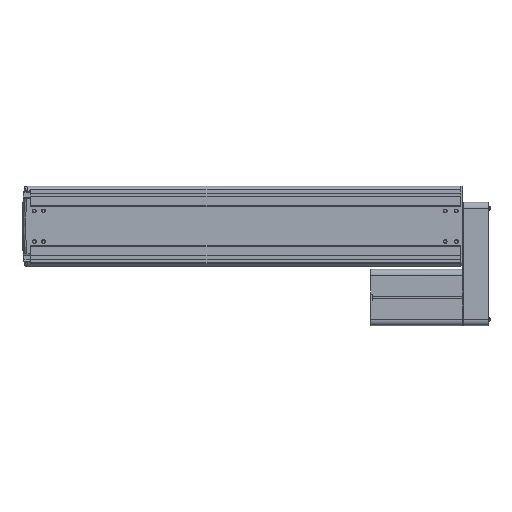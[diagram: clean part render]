
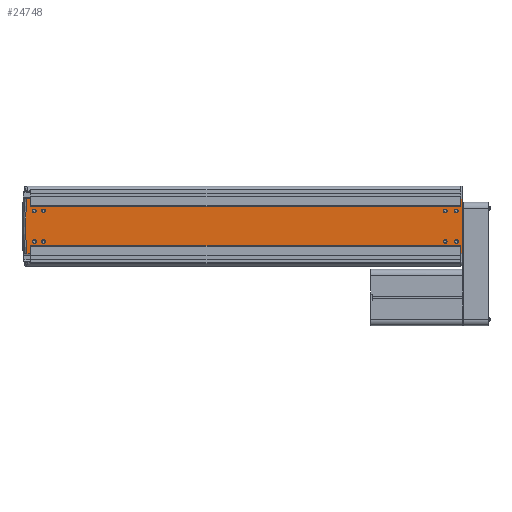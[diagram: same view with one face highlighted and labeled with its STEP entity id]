
A CAD part, front view. The second image highlights one B-rep face of the part: STEP entity #24748.
In plain terms, the highlighted planar face has unit normal (0, -1, 0).
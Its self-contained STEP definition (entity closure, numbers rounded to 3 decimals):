
#2471=CARTESIAN_POINT('',(-694.,1.5,-25.));
#2472=DIRECTION('',(0.,1.,0.));
#2473=DIRECTION('',(1.,0.,0.));
#2474=AXIS2_PLACEMENT_3D('',#2471,#2472,#2473);
#2476=CARTESIAN_POINT('',(-694.,1.5,-25.));
#2477=DIRECTION('',(0.,1.,0.));
#2478=DIRECTION('',(-1.,0.,0.));
#2479=AXIS2_PLACEMENT_3D('',#2476,#2477,#2478);
#2481=CARTESIAN_POINT('',(-694.,1.5,25.));
#2482=DIRECTION('',(0.,1.,0.));
#2483=DIRECTION('',(1.,0.,0.));
#2484=AXIS2_PLACEMENT_3D('',#2481,#2482,#2483);
#2486=CARTESIAN_POINT('',(-694.,1.5,25.));
#2487=DIRECTION('',(0.,1.,0.));
#2488=DIRECTION('',(-1.,0.,0.));
#2489=AXIS2_PLACEMENT_3D('',#2486,#2487,#2488);
#2491=CARTESIAN_POINT('',(-679.,1.5,-25.));
#2492=DIRECTION('',(0.,1.,0.));
#2493=DIRECTION('',(1.,0.,0.));
#2494=AXIS2_PLACEMENT_3D('',#2491,#2492,#2493);
#2496=CARTESIAN_POINT('',(-679.,1.5,-25.));
#2497=DIRECTION('',(0.,1.,0.));
#2498=DIRECTION('',(-1.,0.,0.));
#2499=AXIS2_PLACEMENT_3D('',#2496,#2497,#2498);
#2501=CARTESIAN_POINT('',(-679.,1.5,25.));
#2502=DIRECTION('',(0.,1.,0.));
#2503=DIRECTION('',(1.,0.,0.));
#2504=AXIS2_PLACEMENT_3D('',#2501,#2502,#2503);
#2506=CARTESIAN_POINT('',(-679.,1.5,25.));
#2507=DIRECTION('',(0.,1.,0.));
#2508=DIRECTION('',(-1.,0.,0.));
#2509=AXIS2_PLACEMENT_3D('',#2506,#2507,#2508);
#2511=CARTESIAN_POINT('',(-7.,1.5,-25.));
#2512=DIRECTION('',(0.,1.,0.));
#2513=DIRECTION('',(1.,0.,0.));
#2514=AXIS2_PLACEMENT_3D('',#2511,#2512,#2513);
#2516=CARTESIAN_POINT('',(-7.,1.5,-25.));
#2517=DIRECTION('',(0.,1.,0.));
#2518=DIRECTION('',(-1.,0.,0.));
#2519=AXIS2_PLACEMENT_3D('',#2516,#2517,#2518);
#2521=CARTESIAN_POINT('',(-7.,1.5,25.));
#2522=DIRECTION('',(0.,1.,0.));
#2523=DIRECTION('',(1.,0.,0.));
#2524=AXIS2_PLACEMENT_3D('',#2521,#2522,#2523);
#2526=CARTESIAN_POINT('',(-7.,1.5,25.));
#2527=DIRECTION('',(0.,1.,0.));
#2528=DIRECTION('',(-1.,0.,0.));
#2529=AXIS2_PLACEMENT_3D('',#2526,#2527,#2528);
#2531=CARTESIAN_POINT('',(-25.,1.5,-25.));
#2532=DIRECTION('',(0.,1.,0.));
#2533=DIRECTION('',(1.,0.,0.));
#2534=AXIS2_PLACEMENT_3D('',#2531,#2532,#2533);
#2536=CARTESIAN_POINT('',(-25.,1.5,-25.));
#2537=DIRECTION('',(0.,1.,0.));
#2538=DIRECTION('',(-1.,0.,0.));
#2539=AXIS2_PLACEMENT_3D('',#2536,#2537,#2538);
#2541=CARTESIAN_POINT('',(-25.,1.5,25.));
#2542=DIRECTION('',(0.,1.,0.));
#2543=DIRECTION('',(1.,0.,0.));
#2544=AXIS2_PLACEMENT_3D('',#2541,#2542,#2543);
#2546=CARTESIAN_POINT('',(-25.,1.5,25.));
#2547=DIRECTION('',(0.,1.,0.));
#2548=DIRECTION('',(-1.,0.,0.));
#2549=AXIS2_PLACEMENT_3D('',#2546,#2547,#2548);
#2551=CARTESIAN_POINT('',(-214.,1.5,0.));
#2552=DIRECTION('',(0.,-1.,0.));
#2553=DIRECTION('',(-0.996,0.,0.091));
#2554=AXIS2_PLACEMENT_3D('',#2551,#2552,#2553);
#2556=DIRECTION('',(-1.,0.,0.));
#2557=VECTOR('',#2556,700.);
#2558=CARTESIAN_POINT('',(0.,1.5,32.));
#2559=LINE('',#2558,#2557);
#2560=DIRECTION('',(0.,0.,1.));
#2561=VECTOR('',#2560,88.);
#2562=CARTESIAN_POINT('',(3.,1.5,-44.));
#2563=LINE('',#2562,#2561);
#3316=DIRECTION('',(0.,0.,-1.));
#3317=VECTOR('',#3316,13.);
#3318=CARTESIAN_POINT('',(-700.,1.5,45.));
#3319=LINE('',#3318,#3317);
#3377=DIRECTION('',(0.,0.,-1.));
#3378=VECTOR('',#3377,13.);
#3379=CARTESIAN_POINT('',(-700.,1.5,-32.));
#3380=LINE('',#3379,#3378);
#3724=DIRECTION('',(0.,0.,1.));
#3725=VECTOR('',#3724,12.);
#3726=CARTESIAN_POINT('',(0.,1.5,32.));
#3727=LINE('',#3726,#3725);
#3776=DIRECTION('',(0.,0.,1.));
#3777=VECTOR('',#3776,12.);
#3778=CARTESIAN_POINT('',(0.,1.5,-44.));
#3779=LINE('',#3778,#3777);
#4277=DIRECTION('',(-1.,0.,0.));
#4278=VECTOR('',#4277,6.147);
#4279=CARTESIAN_POINT('',(-700.,1.5,45.));
#4280=LINE('',#4279,#4278);
#4307=DIRECTION('',(1.,0.,0.));
#4308=VECTOR('',#4307,6.147);
#4309=CARTESIAN_POINT('',(-706.147,1.5,-45.));
#4310=LINE('',#4309,#4308);
#11513=DIRECTION('',(1.,0.,0.));
#11514=VECTOR('',#11513,3.);
#11515=CARTESIAN_POINT('',(0.,1.5,-44.));
#11516=LINE('',#11515,#11514);
#11853=DIRECTION('',(-1.,0.,0.));
#11854=VECTOR('',#11853,700.);
#11855=CARTESIAN_POINT('',(0.,1.5,-32.));
#11856=LINE('',#11855,#11854);
#11885=DIRECTION('',(-1.,0.,0.));
#11886=VECTOR('',#11885,3.);
#11887=CARTESIAN_POINT('',(3.,1.5,44.));
#11888=LINE('',#11887,#11886);
#17311=CARTESIAN_POINT('',(3.,1.5,44.));
#17312=VERTEX_POINT('',#17311);
#17313=CARTESIAN_POINT('',(3.,1.5,-44.));
#17314=VERTEX_POINT('',#17313);
#18079=CARTESIAN_POINT('',(-706.147,1.5,45.));
#18080=CARTESIAN_POINT('',(-706.147,1.5,-45.));
#18081=VERTEX_POINT('',#18079);
#18082=VERTEX_POINT('',#18080);
#18964=CARTESIAN_POINT('',(-691.5,1.5,-25.));
#18965=CARTESIAN_POINT('',(-696.5,1.5,-25.));
#18966=VERTEX_POINT('',#18964);
#18967=VERTEX_POINT('',#18965);
#18968=CARTESIAN_POINT('',(-691.5,1.5,25.));
#18969=CARTESIAN_POINT('',(-696.5,1.5,25.));
#18970=VERTEX_POINT('',#18968);
#18971=VERTEX_POINT('',#18969);
#18972=CARTESIAN_POINT('',(-676.5,1.5,-25.));
#18973=CARTESIAN_POINT('',(-681.5,1.5,-25.));
#18974=VERTEX_POINT('',#18972);
#18975=VERTEX_POINT('',#18973);
#18976=CARTESIAN_POINT('',(-676.5,1.5,25.));
#18977=CARTESIAN_POINT('',(-681.5,1.5,25.));
#18978=VERTEX_POINT('',#18976);
#18979=VERTEX_POINT('',#18977);
#18980=CARTESIAN_POINT('',(-4.5,1.5,-25.));
#18981=CARTESIAN_POINT('',(-9.5,1.5,-25.));
#18982=VERTEX_POINT('',#18980);
#18983=VERTEX_POINT('',#18981);
#18984=CARTESIAN_POINT('',(-4.5,1.5,25.));
#18985=CARTESIAN_POINT('',(-9.5,1.5,25.));
#18986=VERTEX_POINT('',#18984);
#18987=VERTEX_POINT('',#18985);
#18988=CARTESIAN_POINT('',(-22.5,1.5,-25.));
#18989=CARTESIAN_POINT('',(-27.5,1.5,-25.));
#18990=VERTEX_POINT('',#18988);
#18991=VERTEX_POINT('',#18989);
#18992=CARTESIAN_POINT('',(-22.5,1.5,25.));
#18993=CARTESIAN_POINT('',(-27.5,1.5,25.));
#18994=VERTEX_POINT('',#18992);
#18995=VERTEX_POINT('',#18993);
#19925=CARTESIAN_POINT('',(0.,1.5,-44.));
#19926=VERTEX_POINT('',#19925);
#19927=CARTESIAN_POINT('',(0.,1.5,-32.));
#19928=VERTEX_POINT('',#19927);
#19929=CARTESIAN_POINT('',(0.,1.5,32.));
#19930=CARTESIAN_POINT('',(0.,1.5,44.));
#19931=VERTEX_POINT('',#19929);
#19932=VERTEX_POINT('',#19930);
#20381=CARTESIAN_POINT('',(-700.,1.5,45.));
#20382=CARTESIAN_POINT('',(-700.,1.5,32.));
#20383=VERTEX_POINT('',#20381);
#20384=VERTEX_POINT('',#20382);
#20385=CARTESIAN_POINT('',(-700.,1.5,-32.));
#20386=CARTESIAN_POINT('',(-700.,1.5,-45.));
#20387=VERTEX_POINT('',#20385);
#20388=VERTEX_POINT('',#20386);
#24670=CARTESIAN_POINT('',(-350.,1.5,0.));
#24671=DIRECTION('',(0.,1.,0.));
#24672=DIRECTION('',(0.,0.,-1.));
#24673=AXIS2_PLACEMENT_3D('',#24670,#24671,#24672);
#24674=PLANE('',#24673);
#24676=ORIENTED_EDGE('',*,*,#24675,.T.);
#24678=ORIENTED_EDGE('',*,*,#24677,.T.);
#24680=ORIENTED_EDGE('',*,*,#24679,.F.);
#24682=ORIENTED_EDGE('',*,*,#24681,.F.);
#24684=ORIENTED_EDGE('',*,*,#24683,.F.);
#24686=ORIENTED_EDGE('',*,*,#24685,.T.);
#24688=ORIENTED_EDGE('',*,*,#24687,.F.);
#24690=ORIENTED_EDGE('',*,*,#24689,.T.);
#24692=ORIENTED_EDGE('',*,*,#24691,.F.);
#24694=ORIENTED_EDGE('',*,*,#24693,.F.);
#24696=ORIENTED_EDGE('',*,*,#24695,.F.);
#24698=ORIENTED_EDGE('',*,*,#24697,.T.);
#24699=EDGE_LOOP('',(#24676,#24678,#24680,#24682,#24684,#24686,#24688,#24690,
#24692,#24694,#24696,#24698));
#24700=FACE_OUTER_BOUND('',#24699,.F.);
#24701=ORIENTED_EDGE('',*,*,#24660,.F.);
#24703=ORIENTED_EDGE('',*,*,#24702,.F.);
#24704=EDGE_LOOP('',(#24701,#24703));
#24705=FACE_BOUND('',#24704,.F.);
#24707=ORIENTED_EDGE('',*,*,#24706,.F.);
#24709=ORIENTED_EDGE('',*,*,#24708,.F.);
#24710=EDGE_LOOP('',(#24707,#24709));
#24711=FACE_BOUND('',#24710,.F.);
#24713=ORIENTED_EDGE('',*,*,#24712,.F.);
#24715=ORIENTED_EDGE('',*,*,#24714,.F.);
#24716=EDGE_LOOP('',(#24713,#24715));
#24717=FACE_BOUND('',#24716,.F.);
#24719=ORIENTED_EDGE('',*,*,#24718,.F.);
#24721=ORIENTED_EDGE('',*,*,#24720,.F.);
#24722=EDGE_LOOP('',(#24719,#24721));
#24723=FACE_BOUND('',#24722,.F.);
#24725=ORIENTED_EDGE('',*,*,#24724,.F.);
#24727=ORIENTED_EDGE('',*,*,#24726,.F.);
#24728=EDGE_LOOP('',(#24725,#24727));
#24729=FACE_BOUND('',#24728,.F.);
#24731=ORIENTED_EDGE('',*,*,#24730,.F.);
#24733=ORIENTED_EDGE('',*,*,#24732,.F.);
#24734=EDGE_LOOP('',(#24731,#24733));
#24735=FACE_BOUND('',#24734,.F.);
#24737=ORIENTED_EDGE('',*,*,#24736,.F.);
#24739=ORIENTED_EDGE('',*,*,#24738,.F.);
#24740=EDGE_LOOP('',(#24737,#24739));
#24741=FACE_BOUND('',#24740,.F.);
#24743=ORIENTED_EDGE('',*,*,#24742,.F.);
#24745=ORIENTED_EDGE('',*,*,#24744,.F.);
#24746=EDGE_LOOP('',(#24743,#24745));
#24747=FACE_BOUND('',#24746,.F.);
#24748=ADVANCED_FACE('',(#24700,#24705,#24711,#24717,#24723,#24729,#24735,
#24741,#24747),#24674,.F.);
#2475=CIRCLE('',#2474,2.5);
#2480=CIRCLE('',#2479,2.5);
#2485=CIRCLE('',#2484,2.5);
#2490=CIRCLE('',#2489,2.5);
#2495=CIRCLE('',#2494,2.5);
#2500=CIRCLE('',#2499,2.5);
#2505=CIRCLE('',#2504,2.5);
#2510=CIRCLE('',#2509,2.5);
#2515=CIRCLE('',#2514,2.5);
#2520=CIRCLE('',#2519,2.5);
#2525=CIRCLE('',#2524,2.5);
#2530=CIRCLE('',#2529,2.5);
#2535=CIRCLE('',#2534,2.5);
#2540=CIRCLE('',#2539,2.5);
#2545=CIRCLE('',#2544,2.5);
#2550=CIRCLE('',#2549,2.5);
#2555=CIRCLE('',#2554,494.2);
#24660=EDGE_CURVE('',#18970,#18971,#2485,.T.);
#24675=EDGE_CURVE('',#19928,#20387,#11856,.T.);
#24677=EDGE_CURVE('',#20387,#20388,#3380,.T.);
#24679=EDGE_CURVE('',#18082,#20388,#4310,.T.);
#24681=EDGE_CURVE('',#18081,#18082,#2555,.T.);
#24683=EDGE_CURVE('',#20383,#18081,#4280,.T.);
#24685=EDGE_CURVE('',#20383,#20384,#3319,.T.);
#24687=EDGE_CURVE('',#19931,#20384,#2559,.T.);
#24689=EDGE_CURVE('',#19931,#19932,#3727,.T.);
#24691=EDGE_CURVE('',#17312,#19932,#11888,.T.);
#24693=EDGE_CURVE('',#17314,#17312,#2563,.T.);
#24695=EDGE_CURVE('',#19926,#17314,#11516,.T.);
#24697=EDGE_CURVE('',#19926,#19928,#3779,.T.);
#24702=EDGE_CURVE('',#18971,#18970,#2490,.T.);
#24706=EDGE_CURVE('',#18974,#18975,#2495,.T.);
#24708=EDGE_CURVE('',#18975,#18974,#2500,.T.);
#24712=EDGE_CURVE('',#18978,#18979,#2505,.T.);
#24714=EDGE_CURVE('',#18979,#18978,#2510,.T.);
#24718=EDGE_CURVE('',#18982,#18983,#2515,.T.);
#24720=EDGE_CURVE('',#18983,#18982,#2520,.T.);
#24724=EDGE_CURVE('',#18986,#18987,#2525,.T.);
#24726=EDGE_CURVE('',#18987,#18986,#2530,.T.);
#24730=EDGE_CURVE('',#18990,#18991,#2535,.T.);
#24732=EDGE_CURVE('',#18991,#18990,#2540,.T.);
#24736=EDGE_CURVE('',#18994,#18995,#2545,.T.);
#24738=EDGE_CURVE('',#18995,#18994,#2550,.T.);
#24742=EDGE_CURVE('',#18966,#18967,#2475,.T.);
#24744=EDGE_CURVE('',#18967,#18966,#2480,.T.);
